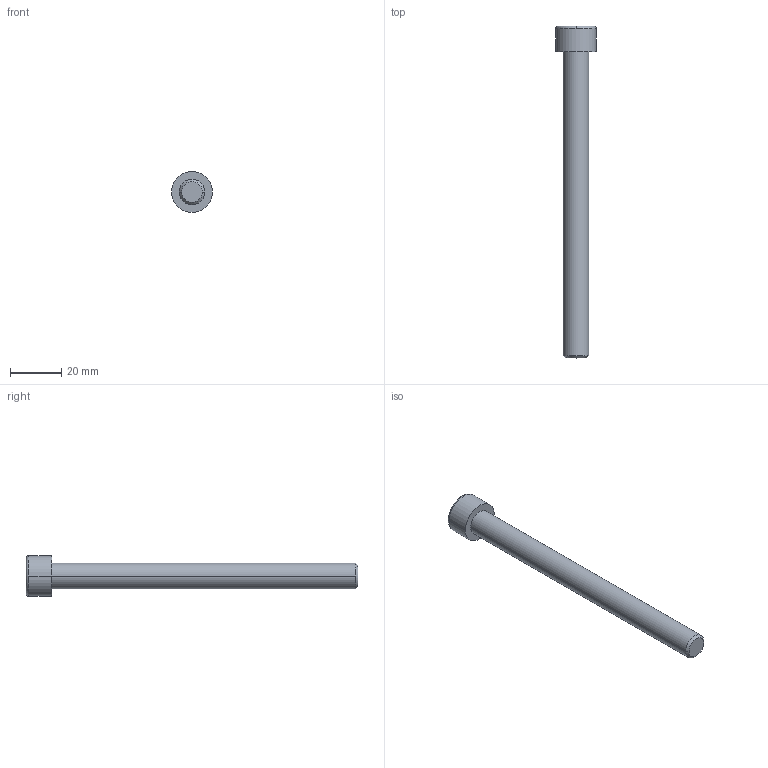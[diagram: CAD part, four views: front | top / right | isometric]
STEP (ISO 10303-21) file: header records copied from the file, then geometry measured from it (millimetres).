
FILE_DESCRIPTION( ( '' ), '1' );
FILE_NAME( '//partserver001.servicenet/client_exchange/iodir/jobs/output/wkb16462382_no0/STEP/e21213_2_03.stp', '2009-05-27T10:29:21', ( '' ), ( '' ), ' ', ' ', ' ' );
FILE_SCHEMA( ( 'CONFIG_CONTROL_DESIGN' ) );
Length unit declared in the file: millimetre
Products named in the file (1): 1
Bounding box: 16 x 130 x 16 mm (x, y, z)
Volume: 11135.3 mm3; surface area: 4773.2 mm2
Topology: 1 solids, 1 shells, 18 faces, 41 edges, 27 vertices
Faces by surface type: plane 10, cylinder 4, torus 2, cone 2
Entity records: 558 total; most frequent: DIRECTION 96, CARTESIAN_POINT 87, ORIENTED_EDGE 82, EDGE_CURVE 41, AXIS2_PLACEMENT_3D 36, VERTEX_POINT 27, LINE 24, VECTOR 24
